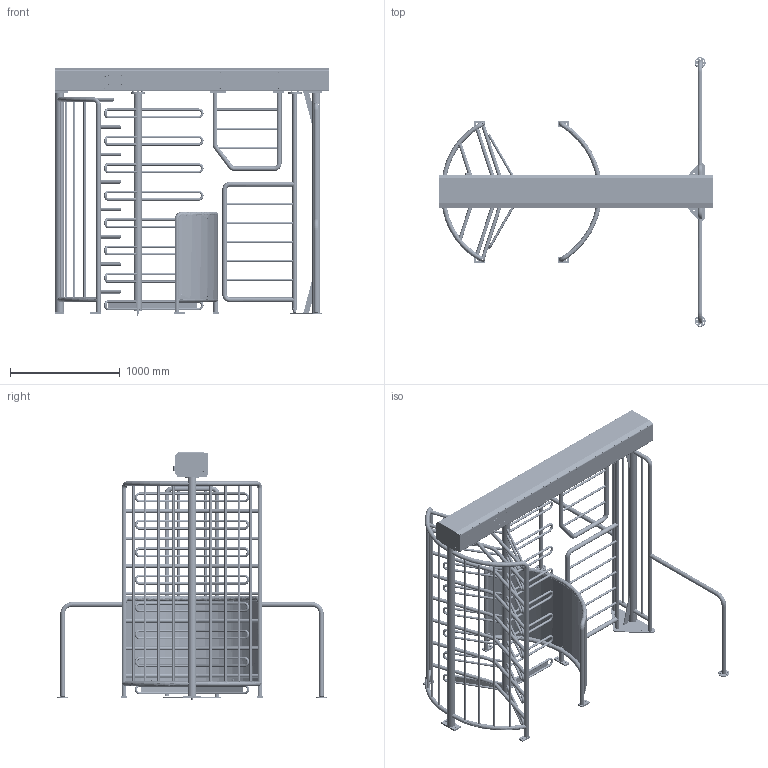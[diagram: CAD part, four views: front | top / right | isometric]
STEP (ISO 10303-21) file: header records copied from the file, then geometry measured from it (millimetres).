
FILE_DESCRIPTION(/* description */ ('Unknown'),/* implementation_level */ '2;1');
FILE_NAME(/* name */ 'MPB-311B-A141_2024 06 10',/* time_stamp */ '2024-06-10T12:00:27+02:00',/* author */ ('Unknown'),/* organization */ ('Unknown'),/* preprocessor_version */ 'ST-DEVELOPER v18.104',/* originating_system */ 'Solid Edge',/* authorisation */ 'Unknown');
FILE_SCHEMA (('AUTOMOTIVE_DESIGN {1 0 10303 214 3 1 1}'));
Products named in the file (126): MPB-311B-A141-BAY01; 10456081_oa_0; 20595825_oa_1; 20595824_oa_2; 20595822d; 20595824c; 20595824b; 20595824a; 20180333; 20180333a; 20180333b; 10135147_oa_3; 33070008; 34065008; 34980023; 34980002; 34765007; 20165313; 20165313a; 20165313b; 20695030; 20375051; 20185022; 20185022a; 20185022b; 10215025_oa_4; 20295934; 20295933; 20295933a; 20295933b; 20295933c; Einpress-Gewindebolzen-M4x20; Einpress-Gewindebolzen-M4x12; 20165314; 34980014; 20180332; 20180332a; 33070005; 33300014; 33060012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
Assembly tree (326 placements, depth 6):
  MPB-311B-A141-BAY01
    10456081_oa_0
      20595825_oa_1
        20595824_oa_2
          20595822d
          20595824c
          20595824b
          20595824a
      20180333  x4
        20180333a
        20180333b
      10135147_oa_3
        33070008  x4
        34065008  x4
        34980023  x4
        34980002  x4
        34765007  x4
        20165313
          20165313a
          20165313b
      20695030  x2
      20375051
      20185022
        20185022a
        20185022b
      10215025_oa_4
        20295934
          20295933
            20295933a
            20295933b
            20295933c
            Einpress-Gewindebolzen-M4x20
            Einpress-Gewindebolzen-M4x12  x4
        20165314
        34980014  x4
        20180332
          20180332a
        33070005  x4
        33300014  x2
        33060012  x2
        34980004  x2
        32220003
        20375051
      10435708_oa_5
        20435996
          20435996a
          Einpress-Gewindebolzen-M4x12
          Gewindeschweissbolzen_M3x30  x4
          Einpressbolzen_D5x10  x2
        35005008  x4
        33075009  x4
        34680018_oa_6
          34680018b
          34680018a
        20436185
        34905031  x2
        33060012
        34980004
        32220003
        32425001  x2
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Bounding box: 2500 x 2457.6 x 2253.09 mm (x, y, z)
Volume: 42057392.3 mm3; surface area: 26665529.7 mm2
Topology: 329 solids, 330 shells, 5783 faces, 14184 edges, 9150 vertices
Faces by surface type: plane 3278, cylinder 1547, cone 612, torus 254, bspline 80, sphere 12
Full cylindrical faces by diameter (mm): 0.1 x12, 1 x4, 1.7 x2, 2 x6, 2.459 x4, 2.5 x12, 3 x14, 3.141 x2, 3.2 x8, 3.3 x7, 4 x20, 4.134 x20, 4.2 x15, 4.3 x7, 4.5 x18, 4.8 x2, 5 x34, 5.3 x4, 5.5 x25, 5.9 x6, 6 x44, 6.5 x1, 6.6 x4, 6.8 x6, 7 x8, 7.5 x2, 8 x19, 8.16 x2, 8.376 x3, 8.5 x41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
Entity records: 78816 total; most frequent: CARTESIAN_POINT 21659, DIRECTION 10959, ORIENTED_EDGE 9912, EDGE_CURVE 4956, AXIS2_PLACEMENT_3D 4194, FACE_BOUND 3743, EDGE_LOOP 3733, VERTEX_POINT 3563
